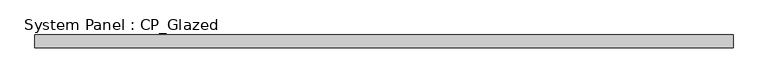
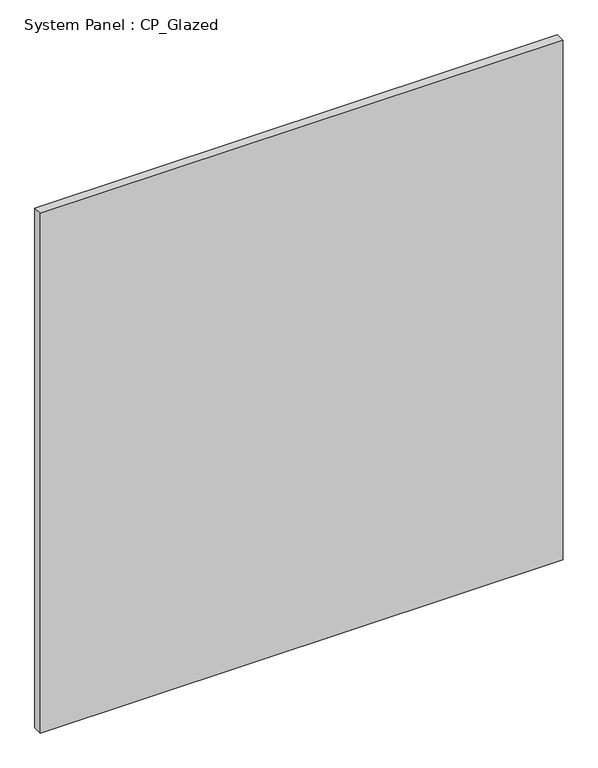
"""IFC4 building model written with IfcOpenShell, lengths in millimetres: plate geometry, System Panel : CP_Glazed."""

from ifc_helpers import new_model, si_unit, origin, origin_with_axes, place, context, project, spatial, polyline, outline, extrude, source, transform, mapped, element, save


def system_panel_cp_glazed_cfb4e0dd(model_context):
    return source(origin(), model_context, "Body", "SweptSolid", [
        extrude(outline(polyline([(704.1696429, 19.05), (-704.1696429, 19.05), (-704.1696429, 44.45), (704.1696429, 44.45), (704.1696429, 19.05)])), origin_with_axes(), (0.0, 0.0, 1.0), 1479.55),
    ])


if __name__ == "__main__":
    model = new_model("IFC4")
    model_context = context("Model", 3, world=origin())
    ifc_project = project(units=[si_unit("LENGTHUNIT", "METRE", prefix="MILLI")], contexts=[model_context])
    site = spatial("IfcSite", under=ifc_project)
    building = spatial("IfcBuilding", under=site)
    placement = place(None, origin())
    system_panel_cp_glazed_shape = system_panel_cp_glazed_cfb4e0dd(model_context)
    element("IfcPlate", 1, ObjectType="System Panel : CP_Glazed", at=placement, inside=building, context=model_context, shape_type="MappedRepresentation", body=[
        mapped(system_panel_cp_glazed_shape, transform((0.0, 0.0, 0.0), x_axis=(1.0, 0.0, 0.0), y_axis=(0.0, 1.0, 0.0), z_axis=(0.0, 0.0, 1.0))),
    ])
    save(model, "model.ifc")
